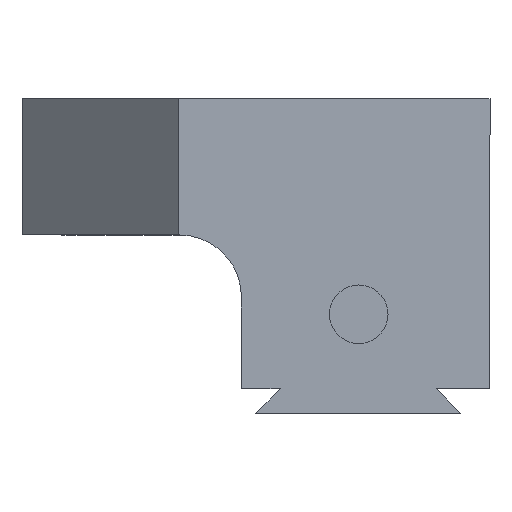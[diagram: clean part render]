
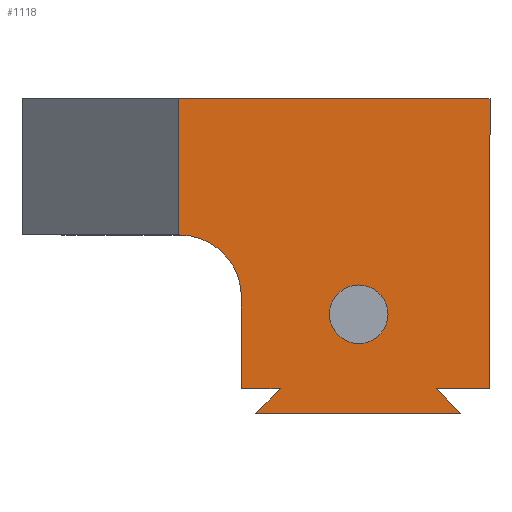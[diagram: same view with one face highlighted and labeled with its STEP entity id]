
A CAD part, front view. The second image highlights one B-rep face of the part: STEP entity #1118.
In plain terms, the highlighted planar face has unit normal (0, -1, 0).
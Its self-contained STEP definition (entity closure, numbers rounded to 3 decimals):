
#7 = LINE ( 'NONE', #1165, #890 ) ;
#8 = AXIS2_PLACEMENT_3D ( 'NONE', #1239, #359, #364 ) ;
#38 = CARTESIAN_POINT ( 'NONE',  ( 22.504, 0., -29.751 ) ) ;
#50 = VERTEX_POINT ( 'NONE', #1432 ) ;
#69 = CIRCLE ( 'NONE', #8, 3. ) ;
#93 = CIRCLE ( 'NONE', #1624, 3. ) ;
#101 = LINE ( 'NONE', #287, #1272 ) ;
#106 = EDGE_CURVE ( 'NONE', #381, #1574, #1455, .T. ) ;
#124 = CARTESIAN_POINT ( 'NONE',  ( 34.544, 0., -22.098 ) ) ;
#143 = ORIENTED_EDGE ( 'NONE', *, *, #503, .F. ) ;
#169 = LINE ( 'NONE', #1396, #1123 ) ;
#182 = EDGE_CURVE ( 'NONE', #50, #1068, #7, .T. ) ;
#185 = CARTESIAN_POINT ( 'NONE',  ( 42.517, 0., -29.751 ) ) ;
#187 = LINE ( 'NONE', #1613, #695 ) ;
#191 = CIRCLE ( 'NONE', #1456, 6.35 ) ;
#204 = DIRECTION ( 'NONE',  ( 0., 0., -1. ) ) ;
#215 = FACE_OUTER_BOUND ( 'NONE', #289, .T. ) ;
#220 = LINE ( 'NONE', #1092, #282 ) ;
#251 = ORIENTED_EDGE ( 'NONE', *, *, #106, .F. ) ;
#259 = CARTESIAN_POINT ( 'NONE',  ( 16.154, 0., -20.32 ) ) ;
#270 = DIRECTION ( 'NONE',  ( 0.707, 0., -0.707 ) ) ;
#282 = VECTOR ( 'NONE', #204, 1000. ) ;
#287 = CARTESIAN_POINT ( 'NONE',  ( 0., 0., -13.97 ) ) ;
#289 = EDGE_LOOP ( 'NONE', ( #1227, #1761, #332, #143, #251, #788, #1053, #438, #1150, #1713, #1041 ) ) ;
#306 = VECTOR ( 'NONE', #535, 1000. ) ;
#318 = CARTESIAN_POINT ( 'NONE',  ( 34.544, 0., -19.098 ) ) ;
#319 = EDGE_CURVE ( 'NONE', #1560, #467, #101, .T. ) ;
#332 = ORIENTED_EDGE ( 'NONE', *, *, #319, .F. ) ;
#339 = ORIENTED_EDGE ( 'NONE', *, *, #1453, .F. ) ;
#340 = CARTESIAN_POINT ( 'NONE',  ( 26.484, 0., -29.751 ) ) ;
#341 = LINE ( 'NONE', #1545, #1676 ) ;
#359 = DIRECTION ( 'NONE',  ( 0., -1., 0. ) ) ;
#364 = DIRECTION ( 'NONE',  ( 0., 0., -1. ) ) ;
#378 = CARTESIAN_POINT ( 'NONE',  ( 22.504, 0., -20.32 ) ) ;
#381 = VERTEX_POINT ( 'NONE', #38 ) ;
#412 = VECTOR ( 'NONE', #1716, 1000. ) ;
#438 = ORIENTED_EDGE ( 'NONE', *, *, #1749, .F. ) ;
#467 = VERTEX_POINT ( 'NONE', #907 ) ;
#484 = DIRECTION ( 'NONE',  ( -1., 0., 0. ) ) ;
#503 = EDGE_CURVE ( 'NONE', #1574, #1560, #191, .T. ) ;
#535 = DIRECTION ( 'NONE',  ( 0., 0., 1. ) ) ;
#558 = DIRECTION ( 'NONE',  ( -1., 0., 0. ) ) ;
#580 = CARTESIAN_POINT ( 'NONE',  ( 26.484, 0., -29.751 ) ) ;
#586 = CARTESIAN_POINT ( 'NONE',  ( 48.006, 0., -29.751 ) ) ;
#588 = LINE ( 'NONE', #340, #1102 ) ;
#601 = EDGE_CURVE ( 'NONE', #1068, #742, #220, .T. ) ;
#626 = CARTESIAN_POINT ( 'NONE',  ( 45.017, 0., -32.251 ) ) ;
#647 = DIRECTION ( 'NONE',  ( 0., 0., 1. ) ) ;
#691 = CARTESIAN_POINT ( 'NONE',  ( 16.002, 0., -20.32 ) ) ;
#695 = VECTOR ( 'NONE', #558, 1000. ) ;
#711 = EDGE_CURVE ( 'NONE', #920, #1803, #588, .T. ) ;
#718 = DIRECTION ( 'NONE',  ( 0., 1., 0. ) ) ;
#742 = VERTEX_POINT ( 'NONE', #586 ) ;
#759 = LINE ( 'NONE', #1470, #1163 ) ;
#771 = VERTEX_POINT ( 'NONE', #626 ) ;
#788 = ORIENTED_EDGE ( 'NONE', *, *, #1564, .F. ) ;
#797 = DIRECTION ( 'NONE',  ( -1., 0., 0. ) ) ;
#806 = CARTESIAN_POINT ( 'NONE',  ( 16.154, 0., -13.97 ) ) ;
#819 = CARTESIAN_POINT ( 'NONE',  ( 34.544, 0., -25.098 ) ) ;
#858 = LINE ( 'NONE', #691, #412 ) ;
#890 = VECTOR ( 'NONE', #1743, 1000. ) ;
#907 = CARTESIAN_POINT ( 'NONE',  ( 16.002, 0., -13.97 ) ) ;
#920 = VERTEX_POINT ( 'NONE', #1671 ) ;
#950 = EDGE_CURVE ( 'NONE', #742, #1403, #169, .T. ) ;
#983 = DIRECTION ( 'NONE',  ( 0.707, 0., 0.707 ) ) ;
#1003 = EDGE_LOOP ( 'NONE', ( #1737, #339 ) ) ;
#1018 = DIRECTION ( 'NONE',  ( 0., 0., 1. ) ) ;
#1032 = FACE_BOUND ( 'NONE', #1003, .T. ) ;
#1041 = ORIENTED_EDGE ( 'NONE', *, *, #601, .F. ) ;
#1053 = ORIENTED_EDGE ( 'NONE', *, *, #711, .F. ) ;
#1068 = VERTEX_POINT ( 'NONE', #1721 ) ;
#1092 = CARTESIAN_POINT ( 'NONE',  ( 48.006, 0., -29.751 ) ) ;
#1102 = VECTOR ( 'NONE', #983, 1000. ) ;
#1118 = ADVANCED_FACE ( 'NONE', ( #1032, #215 ), #1138, .F. ) ;
#1123 = VECTOR ( 'NONE', #484, 1000. ) ;
#1138 = PLANE ( 'NONE',  #1542 ) ;
#1150 = ORIENTED_EDGE ( 'NONE', *, *, #1798, .F. ) ;
#1163 = VECTOR ( 'NONE', #270, 1000. ) ;
#1165 = CARTESIAN_POINT ( 'NONE',  ( 48.006, 0., 0. ) ) ;
#1227 = ORIENTED_EDGE ( 'NONE', *, *, #182, .F. ) ;
#1239 = CARTESIAN_POINT ( 'NONE',  ( 34.544, 0., -22.098 ) ) ;
#1241 = DIRECTION ( 'NONE',  ( 0., -1., 0. ) ) ;
#1272 = VECTOR ( 'NONE', #1621, 1000. ) ;
#1396 = CARTESIAN_POINT ( 'NONE',  ( 42.517, 0., -29.751 ) ) ;
#1403 = VERTEX_POINT ( 'NONE', #185 ) ;
#1426 = VERTEX_POINT ( 'NONE', #318 ) ;
#1432 = CARTESIAN_POINT ( 'NONE',  ( 16.002, 0., 0. ) ) ;
#1453 = EDGE_CURVE ( 'NONE', #1426, #1619, #69, .T. ) ;
#1455 = LINE ( 'NONE', #1850, #306 ) ;
#1456 = AXIS2_PLACEMENT_3D ( 'NONE', #1694, #1241, #647 ) ;
#1470 = CARTESIAN_POINT ( 'NONE',  ( 45.017, 0., -32.251 ) ) ;
#1487 = DIRECTION ( 'NONE',  ( 0., 0., -1. ) ) ;
#1542 = AXIS2_PLACEMENT_3D ( 'NONE', #259, #718, #1018 ) ;
#1545 = CARTESIAN_POINT ( 'NONE',  ( 22.504, 0., -29.751 ) ) ;
#1560 = VERTEX_POINT ( 'NONE', #806 ) ;
#1564 = EDGE_CURVE ( 'NONE', #1803, #381, #341, .T. ) ;
#1574 = VERTEX_POINT ( 'NONE', #378 ) ;
#1610 = EDGE_CURVE ( 'NONE', #50, #467, #858, .T. ) ;
#1613 = CARTESIAN_POINT ( 'NONE',  ( 23.984, 0., -32.251 ) ) ;
#1619 = VERTEX_POINT ( 'NONE', #819 ) ;
#1621 = DIRECTION ( 'NONE',  ( -1., 0., 0. ) ) ;
#1624 = AXIS2_PLACEMENT_3D ( 'NONE', #124, #1774, #1487 ) ;
#1671 = CARTESIAN_POINT ( 'NONE',  ( 23.984, 0., -32.251 ) ) ;
#1676 = VECTOR ( 'NONE', #797, 1000. ) ;
#1694 = CARTESIAN_POINT ( 'NONE',  ( 16.154, 0., -20.32 ) ) ;
#1713 = ORIENTED_EDGE ( 'NONE', *, *, #950, .F. ) ;
#1716 = DIRECTION ( 'NONE',  ( 0., 0., -1. ) ) ;
#1721 = CARTESIAN_POINT ( 'NONE',  ( 48.006, 0., 0. ) ) ;
#1737 = ORIENTED_EDGE ( 'NONE', *, *, #1806, .F. ) ;
#1743 = DIRECTION ( 'NONE',  ( 1., 0., 0. ) ) ;
#1749 = EDGE_CURVE ( 'NONE', #771, #920, #187, .T. ) ;
#1761 = ORIENTED_EDGE ( 'NONE', *, *, #1610, .T. ) ;
#1774 = DIRECTION ( 'NONE',  ( 0., -1., 0. ) ) ;
#1798 = EDGE_CURVE ( 'NONE', #1403, #771, #759, .T. ) ;
#1803 = VERTEX_POINT ( 'NONE', #580 ) ;
#1806 = EDGE_CURVE ( 'NONE', #1619, #1426, #93, .T. ) ;
#1850 = CARTESIAN_POINT ( 'NONE',  ( 22.504, 0., -20.32 ) ) ;
